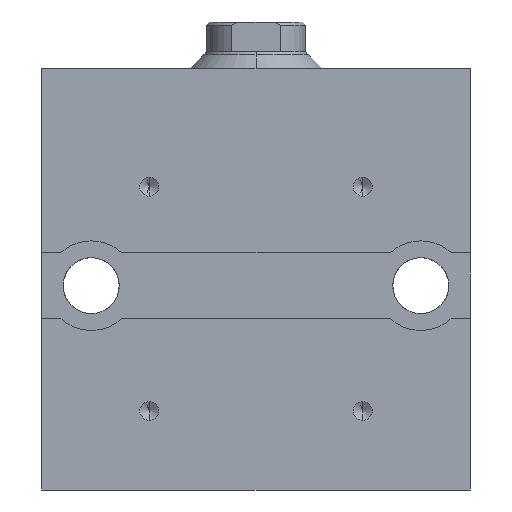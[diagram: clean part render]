
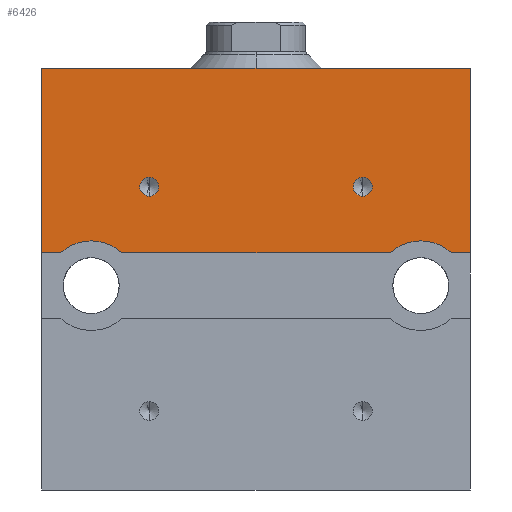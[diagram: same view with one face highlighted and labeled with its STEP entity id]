
A CAD part, left-side view. The second image highlights one B-rep face of the part: STEP entity #6426.
In plain terms, the highlighted planar face has unit normal (-1, 0, 0).
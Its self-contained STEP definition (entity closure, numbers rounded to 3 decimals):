
#62 = VECTOR ( 'NONE', #624, 1000. ) ;
#128 = DIRECTION ( 'NONE',  ( 1., 0., 0. ) ) ;
#136 = VERTEX_POINT ( 'NONE', #6161 ) ;
#228 = EDGE_LOOP ( 'NONE', ( #3224, #2824 ) ) ;
#320 = CARTESIAN_POINT ( 'NONE',  ( -22.5, 32.5, -7. ) ) ;
#384 = CIRCLE ( 'NONE', #1026, 1.425 ) ;
#393 = DIRECTION ( 'NONE',  ( 0., 0., 1. ) ) ;
#396 = DIRECTION ( 'NONE',  ( -1., 0., 0. ) ) ;
#453 = EDGE_CURVE ( 'NONE', #6777, #2097, #3139, .T. ) ;
#503 = AXIS2_PLACEMENT_3D ( 'NONE', #5374, #1426, #5342 ) ;
#579 = AXIS2_PLACEMENT_3D ( 'NONE', #3318, #128, #2254 ) ;
#594 = DIRECTION ( 'NONE',  ( -1., 0., 0. ) ) ;
#604 = VECTOR ( 'NONE', #1386, 1000. ) ;
#624 = DIRECTION ( 'NONE',  ( 0., 1., 0. ) ) ;
#651 = CARTESIAN_POINT ( 'NONE',  ( -22.5, 32.5, -35. ) ) ;
#658 = ORIENTED_EDGE ( 'NONE', *, *, #703, .T. ) ;
#703 = EDGE_CURVE ( 'NONE', #3515, #2738, #5011, .T. ) ;
#731 = LINE ( 'NONE', #6563, #604 ) ;
#809 = CARTESIAN_POINT ( 'NONE',  ( -22.5, 32.5, -71. ) ) ;
#814 = VERTEX_POINT ( 'NONE', #5305 ) ;
#903 = EDGE_LOOP ( 'NONE', ( #2095, #5049 ) ) ;
#944 = EDGE_LOOP ( 'NONE', ( #4083, #3169, #658, #6234, #1755, #1658, #2753, #1662, #3354, #5759 ) ) ;
#952 = VECTOR ( 'NONE', #4611, 1000. ) ;
#1006 = VERTEX_POINT ( 'NONE', #6641 ) ;
#1026 = AXIS2_PLACEMENT_3D ( 'NONE', #6428, #594, #4438 ) ;
#1275 = EDGE_CURVE ( 'NONE', #4914, #5846, #5096, .T. ) ;
#1360 = CARTESIAN_POINT ( 'NONE',  ( -22.5, -25., -33.2 ) ) ;
#1363 = EDGE_CURVE ( 'NONE', #1006, #3515, #1588, .T. ) ;
#1386 = DIRECTION ( 'NONE',  ( 0., 1., 0. ) ) ;
#1393 = EDGE_CURVE ( 'NONE', #814, #1763, #6491, .T. ) ;
#1394 = AXIS2_PLACEMENT_3D ( 'NONE', #5586, #5684, #4054 ) ;
#1426 = DIRECTION ( 'NONE',  ( 1., 0., 0. ) ) ;
#1520 = VECTOR ( 'NONE', #393, 1000. ) ;
#1588 = CIRCLE ( 'NONE', #3373, 6.8 ) ;
#1658 = ORIENTED_EDGE ( 'NONE', *, *, #1275, .F. ) ;
#1662 = ORIENTED_EDGE ( 'NONE', *, *, #3798, .F. ) ;
#1668 = AXIS2_PLACEMENT_3D ( 'NONE', #3133, #2994, #4589 ) ;
#1755 = ORIENTED_EDGE ( 'NONE', *, *, #6389, .T. ) ;
#1763 = VERTEX_POINT ( 'NONE', #4114 ) ;
#1788 = CARTESIAN_POINT ( 'NONE',  ( -22.5, -29.609, -35. ) ) ;
#2067 = DIRECTION ( 'NONE',  ( 0., 1., 0. ) ) ;
#2095 = ORIENTED_EDGE ( 'NONE', *, *, #3263, .F. ) ;
#2097 = VERTEX_POINT ( 'NONE', #4303 ) ;
#2168 = CIRCLE ( 'NONE', #503, 6.8 ) ;
#2254 = DIRECTION ( 'NONE',  ( 0., 0., -1. ) ) ;
#2295 = LINE ( 'NONE', #2760, #62 ) ;
#2365 = VERTEX_POINT ( 'NONE', #651 ) ;
#2458 = AXIS2_PLACEMENT_3D ( 'NONE', #3243, #4765, #6475 ) ;
#2483 = LINE ( 'NONE', #809, #952 ) ;
#2522 = CARTESIAN_POINT ( 'NONE',  ( -22.5, -32.5, -7. ) ) ;
#2529 = DIRECTION ( 'NONE',  ( 0., 0., 1. ) ) ;
#2738 = VERTEX_POINT ( 'NONE', #1788 ) ;
#2753 = ORIENTED_EDGE ( 'NONE', *, *, #4593, .F. ) ;
#2760 = CARTESIAN_POINT ( 'NONE',  ( -22.5, -32.5, -35. ) ) ;
#2824 = ORIENTED_EDGE ( 'NONE', *, *, #453, .F. ) ;
#2934 = VERTEX_POINT ( 'NONE', #6150 ) ;
#2987 = EDGE_CURVE ( 'NONE', #136, #2738, #6814, .T. ) ;
#2994 = DIRECTION ( 'NONE',  ( 1., 0., 0. ) ) ;
#3133 = CARTESIAN_POINT ( 'NONE',  ( -22.5, -25., -40. ) ) ;
#3139 = CIRCLE ( 'NONE', #2458, 1.425 ) ;
#3169 = ORIENTED_EDGE ( 'NONE', *, *, #1363, .T. ) ;
#3224 = ORIENTED_EDGE ( 'NONE', *, *, #4624, .F. ) ;
#3243 = CARTESIAN_POINT ( 'NONE',  ( -22.5, -16.2, -25. ) ) ;
#3263 = EDGE_CURVE ( 'NONE', #2934, #3587, #384, .T. ) ;
#3318 = CARTESIAN_POINT ( 'NONE',  ( -22.5, 25., -40. ) ) ;
#3354 = ORIENTED_EDGE ( 'NONE', *, *, #1393, .T. ) ;
#3373 = AXIS2_PLACEMENT_3D ( 'NONE', #3831, #6846, #5390 ) ;
#3392 = CARTESIAN_POINT ( 'NONE',  ( -22.5, 32.5, -7. ) ) ;
#3515 = VERTEX_POINT ( 'NONE', #1360 ) ;
#3536 = CARTESIAN_POINT ( 'NONE',  ( -22.5, 16.2, -25. ) ) ;
#3587 = VERTEX_POINT ( 'NONE', #5324 ) ;
#3590 = VECTOR ( 'NONE', #6677, 1000. ) ;
#3798 = EDGE_CURVE ( 'NONE', #814, #2365, #731, .T. ) ;
#3831 = CARTESIAN_POINT ( 'NONE',  ( -22.5, -25., -40. ) ) ;
#3951 = EDGE_CURVE ( 'NONE', #1763, #5874, #2168, .T. ) ;
#4054 = DIRECTION ( 'NONE',  ( 0., 0., 1. ) ) ;
#4057 = FACE_BOUND ( 'NONE', #228, .T. ) ;
#4083 = ORIENTED_EDGE ( 'NONE', *, *, #4814, .F. ) ;
#4097 = CARTESIAN_POINT ( 'NONE',  ( -22.5, 32.5, -71. ) ) ;
#4114 = CARTESIAN_POINT ( 'NONE',  ( -22.5, 25., -33.2 ) ) ;
#4131 = DIRECTION ( 'NONE',  ( 0., 0., 1. ) ) ;
#4133 = EDGE_CURVE ( 'NONE', #3587, #2934, #4291, .T. ) ;
#4291 = CIRCLE ( 'NONE', #5178, 1.425 ) ;
#4303 = CARTESIAN_POINT ( 'NONE',  ( -22.5, -16.2, -23.575 ) ) ;
#4403 = CIRCLE ( 'NONE', #1394, 1.425 ) ;
#4436 = CARTESIAN_POINT ( 'NONE',  ( -22.5, -16.2, -26.425 ) ) ;
#4438 = DIRECTION ( 'NONE',  ( 0., 0., 1. ) ) ;
#4589 = DIRECTION ( 'NONE',  ( 0., 0., -1. ) ) ;
#4593 = EDGE_CURVE ( 'NONE', #2365, #4914, #2483, .T. ) ;
#4594 = VECTOR ( 'NONE', #2067, 1000. ) ;
#4611 = DIRECTION ( 'NONE',  ( 0., 0., 1. ) ) ;
#4624 = EDGE_CURVE ( 'NONE', #2097, #6777, #4403, .T. ) ;
#4656 = CARTESIAN_POINT ( 'NONE',  ( -22.5, -32.5, -71. ) ) ;
#4765 = DIRECTION ( 'NONE',  ( -1., 0., 0. ) ) ;
#4814 = EDGE_CURVE ( 'NONE', #1006, #5874, #2295, .T. ) ;
#4914 = VERTEX_POINT ( 'NONE', #3392 ) ;
#4995 = LINE ( 'NONE', #4656, #1520 ) ;
#5011 = CIRCLE ( 'NONE', #1668, 6.8 ) ;
#5049 = ORIENTED_EDGE ( 'NONE', *, *, #4133, .F. ) ;
#5096 = LINE ( 'NONE', #320, #3590 ) ;
#5178 = AXIS2_PLACEMENT_3D ( 'NONE', #3536, #396, #2529 ) ;
#5201 = FACE_BOUND ( 'NONE', #903, .T. ) ;
#5305 = CARTESIAN_POINT ( 'NONE',  ( -22.5, 29.609, -35. ) ) ;
#5324 = CARTESIAN_POINT ( 'NONE',  ( -22.5, 16.2, -26.425 ) ) ;
#5342 = DIRECTION ( 'NONE',  ( 0., 0., -1. ) ) ;
#5374 = CARTESIAN_POINT ( 'NONE',  ( -22.5, 25., -40. ) ) ;
#5390 = DIRECTION ( 'NONE',  ( 0., 0., -1. ) ) ;
#5401 = AXIS2_PLACEMENT_3D ( 'NONE', #4097, #6845, #4131 ) ;
#5586 = CARTESIAN_POINT ( 'NONE',  ( -22.5, -16.2, -25. ) ) ;
#5684 = DIRECTION ( 'NONE',  ( -1., 0., 0. ) ) ;
#5753 = PLANE ( 'NONE',  #5401 ) ;
#5759 = ORIENTED_EDGE ( 'NONE', *, *, #3951, .T. ) ;
#5846 = VERTEX_POINT ( 'NONE', #2522 ) ;
#5874 = VERTEX_POINT ( 'NONE', #6583 ) ;
#6150 = CARTESIAN_POINT ( 'NONE',  ( -22.5, 16.2, -23.575 ) ) ;
#6161 = CARTESIAN_POINT ( 'NONE',  ( -22.5, -32.5, -35. ) ) ;
#6180 = FACE_OUTER_BOUND ( 'NONE', #944, .T. ) ;
#6234 = ORIENTED_EDGE ( 'NONE', *, *, #2987, .F. ) ;
#6288 = CARTESIAN_POINT ( 'NONE',  ( -22.5, -32.5, -35. ) ) ;
#6389 = EDGE_CURVE ( 'NONE', #136, #5846, #4995, .T. ) ;
#6426 = ADVANCED_FACE ( 'NONE', ( #5201, #4057, #6180 ), #5753, .T. ) ;
#6428 = CARTESIAN_POINT ( 'NONE',  ( -22.5, 16.2, -25. ) ) ;
#6475 = DIRECTION ( 'NONE',  ( 0., 0., 1. ) ) ;
#6491 = CIRCLE ( 'NONE', #579, 6.8 ) ;
#6563 = CARTESIAN_POINT ( 'NONE',  ( -22.5, -32.5, -35. ) ) ;
#6583 = CARTESIAN_POINT ( 'NONE',  ( -22.5, 20.391, -35. ) ) ;
#6641 = CARTESIAN_POINT ( 'NONE',  ( -22.5, -20.391, -35. ) ) ;
#6677 = DIRECTION ( 'NONE',  ( 0., -1., 0. ) ) ;
#6777 = VERTEX_POINT ( 'NONE', #4436 ) ;
#6814 = LINE ( 'NONE', #6288, #4594 ) ;
#6845 = DIRECTION ( 'NONE',  ( -1., 0., 0. ) ) ;
#6846 = DIRECTION ( 'NONE',  ( 1., 0., 0. ) ) ;
